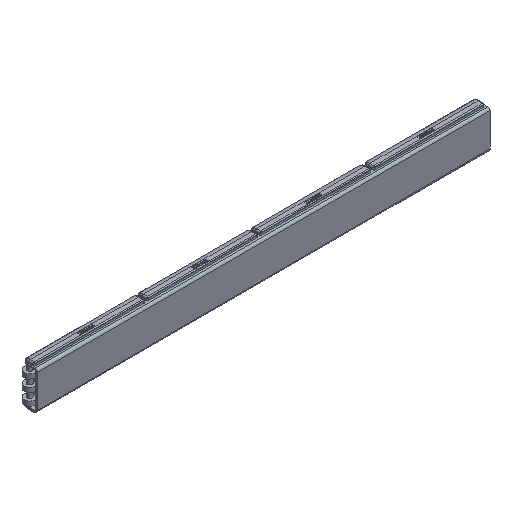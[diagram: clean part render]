
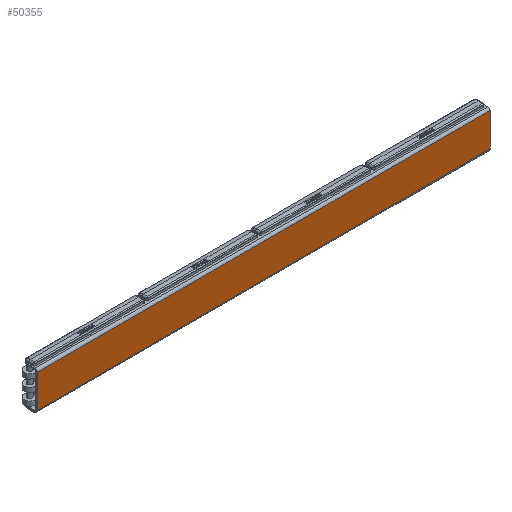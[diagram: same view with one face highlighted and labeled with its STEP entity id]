
A CAD part, isometric view. The second image highlights one B-rep face of the part: STEP entity #50355.
In plain terms, the highlighted planar face has unit normal (0, -1, 0).
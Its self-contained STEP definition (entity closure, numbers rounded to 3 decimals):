
#22599=EDGE_CURVE('',#59419,#64400,#64401,.T.);
#26405=EDGE_CURVE('',#70955,#70956,#70957,.T.);
#32747=EDGE_CURVE('',#70955,#59419,#80971,.T.);
#50355=ADVANCED_FACE('',(#104393),#104394,.F.);
#51381=EDGE_CURVE('',#70956,#64400,#105610,.F.);
#59419=VERTEX_POINT('',#115040);
#64400=VERTEX_POINT('',#122904);
#64401=LINE('',#122905,#122906);
#70955=VERTEX_POINT('',#133217);
#70956=VERTEX_POINT('',#133218);
#70957=LINE('',#133219,#133220);
#80971=LINE('',#149308,#149309);
#104393=FACE_OUTER_BOUND('',#189696,.T.);
#104394=PLANE('',#189697);
#105610=LINE('',#191829,#191830);
#115040=CARTESIAN_POINT('',(-500.0,0.0,36.5));
#122904=CARTESIAN_POINT('',(-500.0,0.0,-36.5));
#122905=CARTESIAN_POINT('',(-500.0,0.0,0.0));
#122906=VECTOR('',#213539,1.0);
#133217=CARTESIAN_POINT('',(500.0,0.0,36.5));
#133218=CARTESIAN_POINT('',(500.0,0.0,-36.5));
#133219=CARTESIAN_POINT('',(500.0,0.0,0.0));
#133220=VECTOR('',#220389,1.0);
#149308=CARTESIAN_POINT('',(0.0,0.0,36.5));
#149309=VECTOR('',#231074,1.0);
#189696=EDGE_LOOP('',(#260245,#260246,#260247,#260248));
#189697=AXIS2_PLACEMENT_3D('',#260249,#260250,#260251);
#191829=CARTESIAN_POINT('',(0.0,0.,-36.5));
#191830=VECTOR('',#261842,1.0);
#213539=DIRECTION('',(0.0,0.0,-1.0));
#220389=DIRECTION('',(0.0,0.0,-1.0));
#231074=DIRECTION('',(-1.0,0.0,0.0));
#260245=ORIENTED_EDGE('',*,*,#22599,.T.);
#260246=ORIENTED_EDGE('',*,*,#51381,.F.);
#260247=ORIENTED_EDGE('',*,*,#26405,.F.);
#260248=ORIENTED_EDGE('',*,*,#32747,.T.);
#260249=CARTESIAN_POINT('',(0.0,0.0,36.5));
#260250=DIRECTION('',(0.0,1.0,0.0));
#260251=DIRECTION('',(1.0,0.0,-0.0));
#261842=DIRECTION('',(1.0,0.0,0.0));
